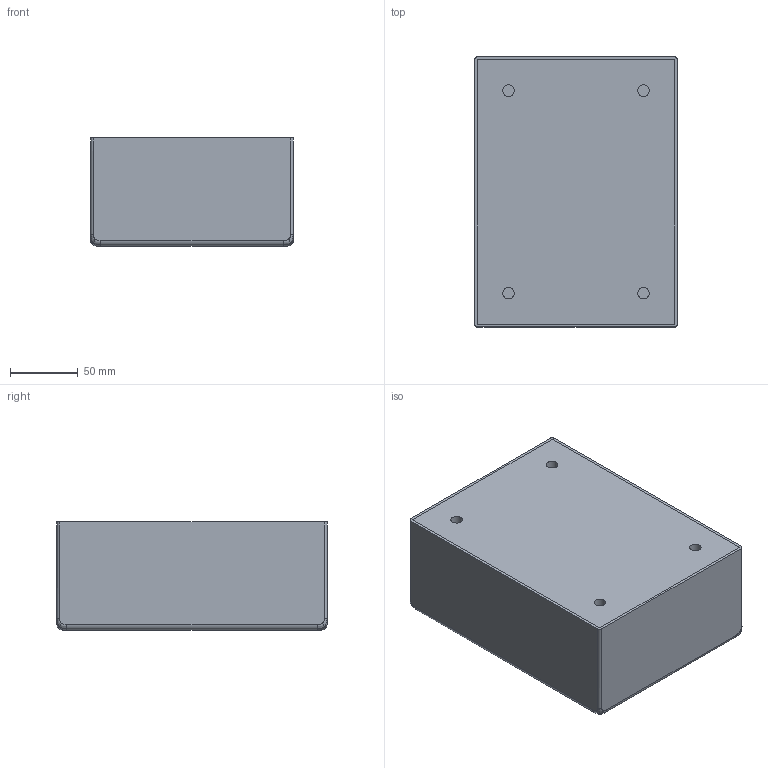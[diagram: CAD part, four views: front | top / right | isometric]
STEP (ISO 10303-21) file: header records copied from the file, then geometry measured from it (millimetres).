
FILE_DESCRIPTION(/* description */ (''),/* implementation_level */ '2;1');
FILE_NAME(/* name */ 'SMB-15-20.step',/* time_stamp */ '2023-07-05T14:13:18+09:00',/* author */ (''),/* organization */ (''),/* preprocessor_version */ 'ST-DEVELOPER v19.2',/* originating_system */ 'Autodesk Translation Framework v12.6.0.85',/* authorisation */ '');
FILE_SCHEMA (('AUTOMOTIVE_DESIGN { 1 0 10303 214 3 1 1 }'));
Length unit declared in the file: millimetre
Products named in the file (1): 17557-1_SMB-15-20
Bounding box: 150 x 200 x 80 mm (x, y, z)
Volume: 506467.6 mm3; surface area: 233513.6 mm2
Topology: 2 solids, 2 shells, 57 faces, 140 edges, 88 vertices
Faces by surface type: bspline 24, plane 17, cylinder 16
Full cylindrical faces by diameter (mm): 8.526 x4
Entity records: 4544 total; most frequent: CARTESIAN_POINT 3246, ORIENTED_EDGE 280, DIRECTION 216, EDGE_CURVE 140, VERTEX_POINT 88, AXIS2_PLACEMENT_3D 82, EDGE_LOOP 66, FACE_OUTER_BOUND 57
